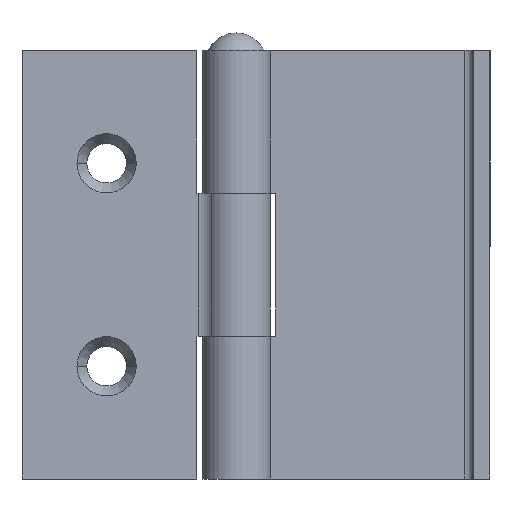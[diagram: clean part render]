
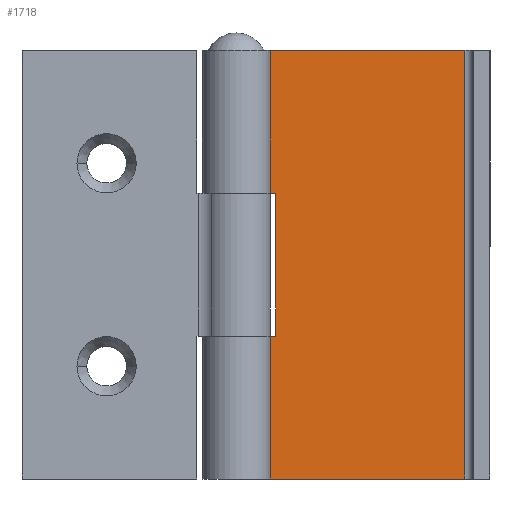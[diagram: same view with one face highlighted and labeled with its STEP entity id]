
A CAD part, front view. The second image highlights one B-rep face of the part: STEP entity #1718.
In plain terms, the highlighted planar face has unit normal (0, -1, 0).
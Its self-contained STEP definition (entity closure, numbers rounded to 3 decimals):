
#930=CARTESIAN_POINT('',(0.,1.5,0.0));
#931=VERTEX_POINT('',#930);
#939=CARTESIAN_POINT('',(0.,1.5,3.0));
#940=VERTEX_POINT('',#939);
#941=CARTESIAN_POINT('',(0.,1.5,3.0));
#942=DIRECTION('',(0.0,0.0,-1.0));
#943=VECTOR('',#942,3.0);
#944=LINE('',#941,#943);
#945=EDGE_CURVE('',#940,#931,#944,.T.);
#1239=CARTESIAN_POINT('',(0.,1.5,38.0));
#1240=VERTEX_POINT('',#1239);
#1241=CARTESIAN_POINT('',(1.968,1.5,38.0));
#1242=VERTEX_POINT('',#1241);
#1243=CARTESIAN_POINT('',(0.,1.5,38.0));
#1244=DIRECTION('',(1.0,0.0,0.0));
#1245=VECTOR('',#1244,1.968);
#1246=LINE('',#1243,#1245);
#1247=EDGE_CURVE('',#1240,#1242,#1246,.T.);
#1322=CARTESIAN_POINT('',(0.,1.5,12.667));
#1323=VERTEX_POINT('',#1322);
#1324=CARTESIAN_POINT('',(0.,1.5,12.667));
#1325=DIRECTION('',(0.0,0.0,-1.0));
#1326=VECTOR('',#1325,9.667);
#1327=LINE('',#1324,#1326);
#1328=EDGE_CURVE('',#1323,#940,#1327,.T.);
#1338=CARTESIAN_POINT('',(0.,1.5,25.333));
#1339=VERTEX_POINT('',#1338);
#1347=CARTESIAN_POINT('',(0.,1.5,38.0));
#1348=DIRECTION('',(0.0,0.0,-1.0));
#1349=VECTOR('',#1348,12.667);
#1350=LINE('',#1347,#1349);
#1351=EDGE_CURVE('',#1240,#1339,#1350,.T.);
#1425=CARTESIAN_POINT('',(3.5,1.5,12.667));
#1426=VERTEX_POINT('',#1425);
#1427=CARTESIAN_POINT('',(3.5,1.5,12.667));
#1428=DIRECTION('',(-1.0,0.0,0.0));
#1429=VECTOR('',#1428,3.5);
#1430=LINE('',#1427,#1429);
#1431=EDGE_CURVE('',#1426,#1323,#1430,.T.);
#1475=CARTESIAN_POINT('',(3.5,1.5,25.333));
#1476=VERTEX_POINT('',#1475);
#1477=CARTESIAN_POINT('',(0.,1.5,25.333));
#1478=DIRECTION('',(1.0,0.0,0.0));
#1479=VECTOR('',#1478,3.5);
#1480=LINE('',#1477,#1479);
#1481=EDGE_CURVE('',#1339,#1476,#1480,.T.);
#1525=CARTESIAN_POINT('',(3.5,1.5,25.333));
#1526=DIRECTION('',(0.0,0.0,-1.0));
#1527=VECTOR('',#1526,12.667);
#1528=LINE('',#1525,#1527);
#1529=EDGE_CURVE('',#1476,#1426,#1528,.T.);
#1682=CARTESIAN_POINT('',(0.,1.5,38.0));
#1683=DIRECTION('',(0.0,-1.0,0.0));
#1684=DIRECTION('',(0.0,0.0,-1.0));
#1685=AXIS2_PLACEMENT_3D('',#1682,#1683,#1684);
#1686=PLANE('',#1685);
#1687=ORIENTED_EDGE('',*,*,#1431,.T.);
#1688=ORIENTED_EDGE('',*,*,#1328,.T.);
#1689=ORIENTED_EDGE('',*,*,#945,.T.);
#1690=CARTESIAN_POINT('',(20.25,1.5,0.0));
#1691=VERTEX_POINT('',#1690);
#1692=CARTESIAN_POINT('',(0.,1.5,0.0));
#1693=DIRECTION('',(1.0,0.0,0.0));
#1694=VECTOR('',#1693,20.25);
#1695=LINE('',#1692,#1694);
#1696=EDGE_CURVE('',#931,#1691,#1695,.T.);
#1697=ORIENTED_EDGE('',*,*,#1696,.T.);
#1698=CARTESIAN_POINT('',(20.25,1.5,38.0));
#1699=VERTEX_POINT('',#1698);
#1700=CARTESIAN_POINT('',(20.25,1.5,38.0));
#1701=DIRECTION('',(0.0,0.0,-1.0));
#1702=VECTOR('',#1701,38.0);
#1703=LINE('',#1700,#1702);
#1704=EDGE_CURVE('',#1699,#1691,#1703,.T.);
#1705=ORIENTED_EDGE('',*,*,#1704,.F.);
#1706=CARTESIAN_POINT('',(1.968,1.5,38.0));
#1707=DIRECTION('',(1.0,0.0,0.0));
#1708=VECTOR('',#1707,18.282);
#1709=LINE('',#1706,#1708);
#1710=EDGE_CURVE('',#1242,#1699,#1709,.T.);
#1711=ORIENTED_EDGE('',*,*,#1710,.F.);
#1712=ORIENTED_EDGE('',*,*,#1247,.F.);
#1713=ORIENTED_EDGE('',*,*,#1351,.T.);
#1714=ORIENTED_EDGE('',*,*,#1481,.T.);
#1715=ORIENTED_EDGE('',*,*,#1529,.T.);
#1716=EDGE_LOOP('',(#1687,#1688,#1689,#1697,#1705,#1711,#1712,#1713,#1714,#1715));
#1717=FACE_OUTER_BOUND('',#1716,.T.);
#1718=ADVANCED_FACE('',(#1717),#1686,.T.);
